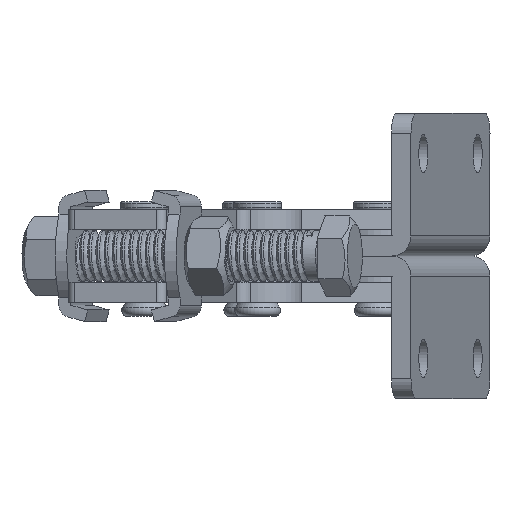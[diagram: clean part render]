
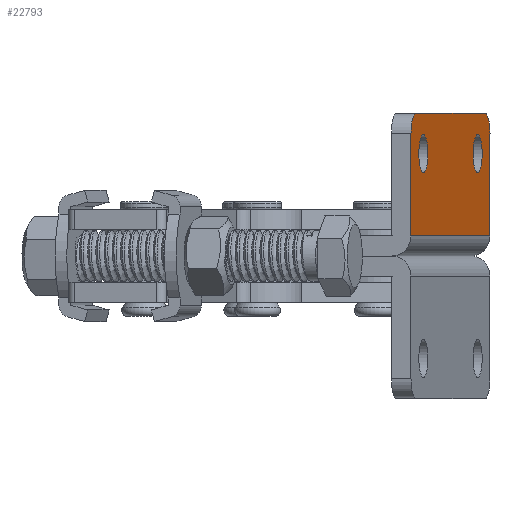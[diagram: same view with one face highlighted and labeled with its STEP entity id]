
A CAD part, left-side view. The second image highlights one B-rep face of the part: STEP entity #22793.
In plain terms, the highlighted planar face has unit normal (-0.237, -0.972, 0) as drawn and (0, -1, 0) by its records, which use the part's own axes.
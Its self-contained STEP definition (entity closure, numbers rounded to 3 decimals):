
#2449=FACE_BOUND('',#4342,.T.);
#2450=FACE_BOUND('',#4343,.T.);
#2544=PLANE('',#24335);
#3044=FACE_OUTER_BOUND('',#4341,.T.);
#4341=EDGE_LOOP('',(#15737,#15738,#15739,#15740,#15741,#15742));
#4342=EDGE_LOOP('',(#15743,#15744));
#4343=EDGE_LOOP('',(#15745,#15746));
#5722=LINE('',#30577,#7586);
#5725=LINE('',#30584,#7589);
#5728=LINE('',#30590,#7592);
#5732=LINE('',#30613,#7596);
#7586=VECTOR('',#25814,1000.);
#7589=VECTOR('',#25823,1000.);
#7592=VECTOR('',#25828,1000.);
#7596=VECTOR('',#25852,1000.);
#9460=CIRCLE('',#24336,5.);
#9461=CIRCLE('',#24337,5.);
#9462=CIRCLE('',#24338,4.75);
#9463=CIRCLE('',#24339,4.75);
#9464=CIRCLE('',#24340,4.75);
#9465=CIRCLE('',#24341,4.75);
#10023=VERTEX_POINT('',#30573);
#10024=VERTEX_POINT('',#30575);
#10025=VERTEX_POINT('',#30583);
#10027=VERTEX_POINT('',#30589);
#10035=VERTEX_POINT('',#30610);
#10036=VERTEX_POINT('',#30612);
#10037=VERTEX_POINT('',#30615);
#10038=VERTEX_POINT('',#30616);
#10039=VERTEX_POINT('',#30619);
#10040=VERTEX_POINT('',#30620);
#12253=EDGE_CURVE('',#10023,#10024,#5722,.T.);
#12256=EDGE_CURVE('',#10025,#10023,#5725,.T.);
#12259=EDGE_CURVE('',#10027,#10024,#5728,.T.);
#12269=EDGE_CURVE('',#10027,#10035,#9460,.T.);
#12270=EDGE_CURVE('',#10035,#10036,#5732,.T.);
#12271=EDGE_CURVE('',#10036,#10025,#9461,.T.);
#12272=EDGE_CURVE('',#10037,#10038,#9462,.T.);
#12273=EDGE_CURVE('',#10038,#10037,#9463,.T.);
#12274=EDGE_CURVE('',#10039,#10040,#9464,.T.);
#12275=EDGE_CURVE('',#10040,#10039,#9465,.T.);
#15737=ORIENTED_EDGE('',*,*,#12256,.T.);
#15738=ORIENTED_EDGE('',*,*,#12253,.T.);
#15739=ORIENTED_EDGE('',*,*,#12259,.F.);
#15740=ORIENTED_EDGE('',*,*,#12269,.T.);
#15741=ORIENTED_EDGE('',*,*,#12270,.T.);
#15742=ORIENTED_EDGE('',*,*,#12271,.T.);
#15743=ORIENTED_EDGE('',*,*,#12272,.F.);
#15744=ORIENTED_EDGE('',*,*,#12273,.F.);
#15745=ORIENTED_EDGE('',*,*,#12274,.F.);
#15746=ORIENTED_EDGE('',*,*,#12275,.F.);
#22793=ADVANCED_FACE('',(#3044,#2449,#2450),#2544,.F.);
#24335=AXIS2_PLACEMENT_3D('',#30609,#25848,#25849);
#24336=AXIS2_PLACEMENT_3D('',#30611,#25850,#25851);
#24337=AXIS2_PLACEMENT_3D('',#30614,#25853,#25854);
#24338=AXIS2_PLACEMENT_3D('',#30617,#25855,#25856);
#24339=AXIS2_PLACEMENT_3D('',#30618,#25857,#25858);
#24340=AXIS2_PLACEMENT_3D('',#30621,#25859,#25860);
#24341=AXIS2_PLACEMENT_3D('',#30622,#25861,#25862);
#25814=DIRECTION('',(1.,0.,0.));
#25823=DIRECTION('',(0.,0.,-1.));
#25828=DIRECTION('',(0.,0.,-1.));
#25848=DIRECTION('center_axis',(0.,1.,0.));
#25849=DIRECTION('ref_axis',(0.,0.,1.));
#25850=DIRECTION('center_axis',(0.,-1.,0.));
#25851=DIRECTION('ref_axis',(0.,0.,-1.));
#25852=DIRECTION('',(-1.,0.,0.));
#25853=DIRECTION('center_axis',(0.,-1.,0.));
#25854=DIRECTION('ref_axis',(0.,0.,-1.));
#25855=DIRECTION('center_axis',(0.,-1.,0.));
#25856=DIRECTION('ref_axis',(0.,0.,-1.));
#25857=DIRECTION('center_axis',(0.,-1.,0.));
#25858=DIRECTION('ref_axis',(0.,0.,-1.));
#25859=DIRECTION('center_axis',(0.,-1.,0.));
#25860=DIRECTION('ref_axis',(0.,0.,-1.));
#25861=DIRECTION('center_axis',(0.,-1.,0.));
#25862=DIRECTION('ref_axis',(0.,0.,-1.));
#30573=CARTESIAN_POINT('',(0.,0.,5.));
#30575=CARTESIAN_POINT('',(83.,0.,5.));
#30577=CARTESIAN_POINT('',(0.,0.,5.));
#30583=CARTESIAN_POINT('',(0.,0.,30.5));
#30584=CARTESIAN_POINT('',(0.,0.,5.));
#30589=CARTESIAN_POINT('',(83.,0.,30.5));
#30590=CARTESIAN_POINT('',(83.,0.,5.));
#30609=CARTESIAN_POINT('Origin',(0.,0.,5.));
#30610=CARTESIAN_POINT('',(78.,0.,35.5));
#30611=CARTESIAN_POINT('Origin',(78.,0.,30.5));
#30612=CARTESIAN_POINT('',(5.,0.,35.5));
#30613=CARTESIAN_POINT('',(78.,0.,35.5));
#30614=CARTESIAN_POINT('Origin',(5.,0.,30.5));
#30615=CARTESIAN_POINT('',(13.,0.,20.75));
#30616=CARTESIAN_POINT('',(13.,0.,30.25));
#30617=CARTESIAN_POINT('Origin',(13.,0.,25.5));
#30618=CARTESIAN_POINT('Origin',(13.,0.,25.5));
#30619=CARTESIAN_POINT('',(70.,0.,20.75));
#30620=CARTESIAN_POINT('',(70.,0.,30.25));
#30621=CARTESIAN_POINT('Origin',(70.,0.,25.5));
#30622=CARTESIAN_POINT('Origin',(70.,0.,25.5));
